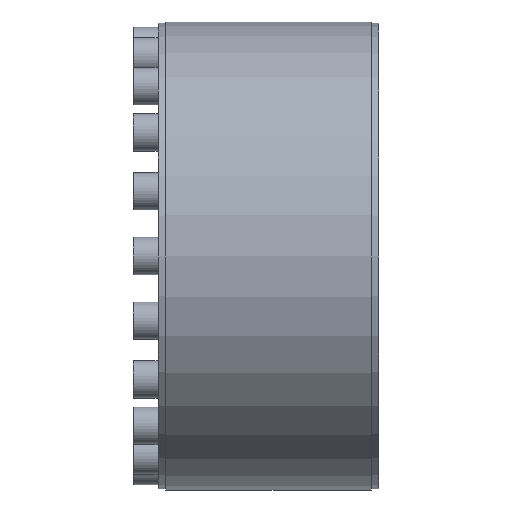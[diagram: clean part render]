
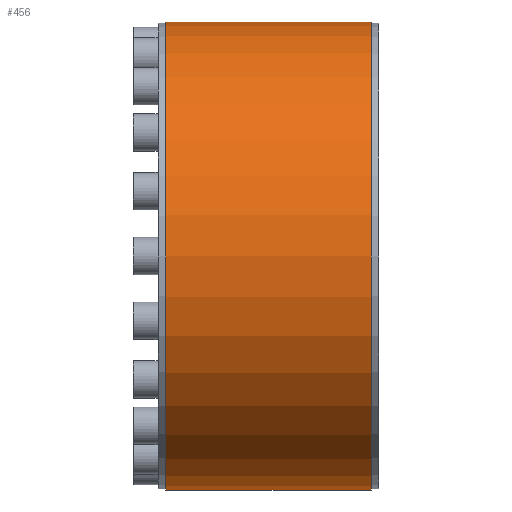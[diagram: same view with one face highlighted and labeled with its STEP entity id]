
A CAD part, left-side view. The second image highlights one B-rep face of the part: STEP entity #456.
In plain terms, the highlighted cylindrical face has radius 187.5 mm (diameter 375 mm), a partial arc.
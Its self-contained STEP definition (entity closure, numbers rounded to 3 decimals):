
#33 = ORIENTED_EDGE ( 'NONE', *, *, #5209, .T. ) ;
#354 = CARTESIAN_POINT ( 'NONE',  ( 0., 82.5, 187.5 ) ) ;
#456 = ADVANCED_FACE ( 'NONE', ( #1283 ), #6836, .T. ) ;
#734 = CIRCLE ( 'NONE', #6874, 187.5 ) ;
#960 = LINE ( 'NONE', #2693, #1138 ) ;
#1042 = AXIS2_PLACEMENT_3D ( 'NONE', #3293, #5543, #2762 ) ;
#1138 = VECTOR ( 'NONE', #6597, 1000. ) ;
#1283 = FACE_OUTER_BOUND ( 'NONE', #4523, .T. ) ;
#1551 = ORIENTED_EDGE ( 'NONE', *, *, #4115, .F. ) ;
#1680 = AXIS2_PLACEMENT_3D ( 'NONE', #2296, #6204, #2846 ) ;
#1872 = VERTEX_POINT ( 'NONE', #354 ) ;
#1879 = DIRECTION ( 'NONE',  ( 0., -1., 0. ) ) ;
#2178 = LINE ( 'NONE', #5178, #5482 ) ;
#2296 = CARTESIAN_POINT ( 'NONE',  ( 0., -82.5, 0. ) ) ;
#2377 = EDGE_CURVE ( 'NONE', #1872, #5471, #734, .T. ) ;
#2693 = CARTESIAN_POINT ( 'NONE',  ( 0., 0., -187.5 ) ) ;
#2762 = DIRECTION ( 'NONE',  ( 0., 0., -1. ) ) ;
#2781 = CARTESIAN_POINT ( 'NONE',  ( 0., -82.5, -187.5 ) ) ;
#2846 = DIRECTION ( 'NONE',  ( 0., 0., -1. ) ) ;
#3293 = CARTESIAN_POINT ( 'NONE',  ( 0., 0., 0. ) ) ;
#3366 = ORIENTED_EDGE ( 'NONE', *, *, #2377, .T. ) ;
#3633 = CIRCLE ( 'NONE', #1680, 187.5 ) ;
#4032 = DIRECTION ( 'NONE',  ( 0., -1., 0. ) ) ;
#4115 = EDGE_CURVE ( 'NONE', #1872, #6295, #2178, .T. ) ;
#4523 = EDGE_LOOP ( 'NONE', ( #1551, #3366, #33, #5519 ) ) ;
#4998 = CARTESIAN_POINT ( 'NONE',  ( 0., 82.5, -187.5 ) ) ;
#5178 = CARTESIAN_POINT ( 'NONE',  ( 0., 0., 187.5 ) ) ;
#5209 = EDGE_CURVE ( 'NONE', #5471, #5524, #960, .T. ) ;
#5351 = EDGE_CURVE ( 'NONE', #6295, #5524, #3633, .T. ) ;
#5471 = VERTEX_POINT ( 'NONE', #4998 ) ;
#5482 = VECTOR ( 'NONE', #4032, 1000. ) ;
#5519 = ORIENTED_EDGE ( 'NONE', *, *, #5351, .F. ) ;
#5524 = VERTEX_POINT ( 'NONE', #2781 ) ;
#5543 = DIRECTION ( 'NONE',  ( 0., -1., 0. ) ) ;
#5783 = CARTESIAN_POINT ( 'NONE',  ( 0., 82.5, 0. ) ) ;
#6069 = CARTESIAN_POINT ( 'NONE',  ( 0., -82.5, 187.5 ) ) ;
#6204 = DIRECTION ( 'NONE',  ( 0., -1., 0. ) ) ;
#6295 = VERTEX_POINT ( 'NONE', #6069 ) ;
#6337 = DIRECTION ( 'NONE',  ( 0., 0., -1. ) ) ;
#6597 = DIRECTION ( 'NONE',  ( 0., -1., 0. ) ) ;
#6836 = CYLINDRICAL_SURFACE ( 'NONE', #1042, 187.5 ) ;
#6874 = AXIS2_PLACEMENT_3D ( 'NONE', #5783, #1879, #6337 ) ;
